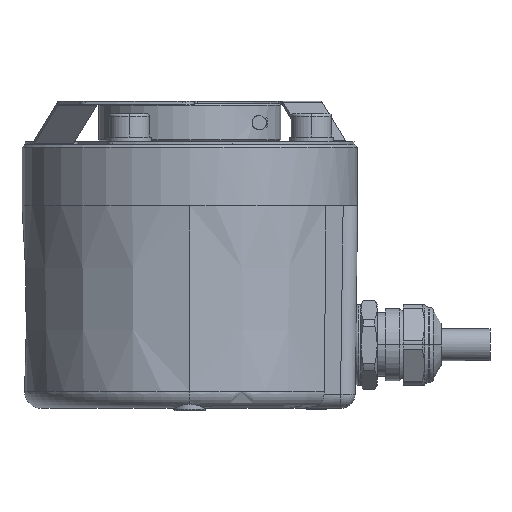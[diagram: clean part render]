
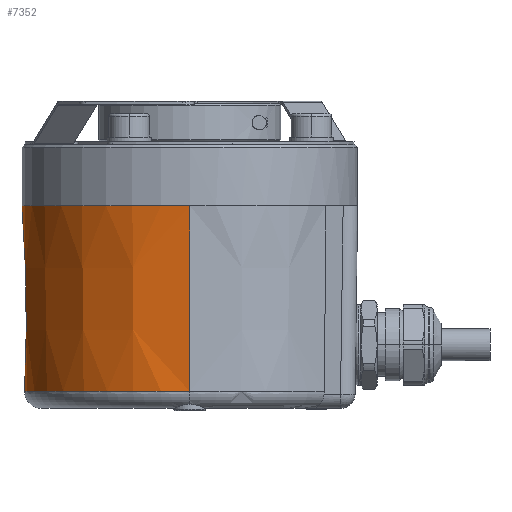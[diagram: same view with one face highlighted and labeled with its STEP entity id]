
A CAD part, left-side view. The second image highlights one B-rep face of the part: STEP entity #7352.
In plain terms, the highlighted conical face has half-angle 0.8 degrees and reference radius 29 mm.
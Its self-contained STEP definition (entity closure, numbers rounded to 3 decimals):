
#362 = VERTEX_POINT ( 'NONE', #1228 ) ;
#433 = DIRECTION ( 'NONE',  ( 0., 0., 1. ) ) ;
#826 = VERTEX_POINT ( 'NONE', #9686 ) ;
#1228 = CARTESIAN_POINT ( 'NONE',  ( -28.553, 0., -25.042 ) ) ;
#1851 = CIRCLE ( 'NONE', #11816, 29. ) ;
#2190 = DIRECTION ( 'NONE',  ( -1., 0., 0. ) ) ;
#2292 = VERTEX_POINT ( 'NONE', #12244 ) ;
#2441 = DIRECTION ( 'NONE',  ( 0.014, 0., 1. ) ) ;
#3293 = EDGE_CURVE ( 'NONE', #826, #2292, #1851, .T. ) ;
#3389 = ORIENTED_EDGE ( 'NONE', *, *, #11104, .F. ) ;
#3527 = CARTESIAN_POINT ( 'NONE',  ( 0., 0., 7. ) ) ;
#4038 = AXIS2_PLACEMENT_3D ( 'NONE', #14778, #8119, #17445 ) ;
#4185 = VECTOR ( 'NONE', #8956, 1000. ) ;
#4277 = VERTEX_POINT ( 'NONE', #5058 ) ;
#4795 = CARTESIAN_POINT ( 'NONE',  ( 0., 0., 7. ) ) ;
#5038 = EDGE_CURVE ( 'NONE', #7171, #362, #9981, .T. ) ;
#5058 = CARTESIAN_POINT ( 'NONE',  ( -29., 0., 7. ) ) ;
#5363 = ORIENTED_EDGE ( 'NONE', *, *, #3293, .F. ) ;
#5371 = DIRECTION ( 'NONE',  ( 0., 0., 1. ) ) ;
#6036 = EDGE_CURVE ( 'NONE', #2292, #4277, #11718, .T. ) ;
#6368 = ORIENTED_EDGE ( 'NONE', *, *, #5038, .T. ) ;
#6470 = CARTESIAN_POINT ( 'NONE',  ( -29., 0., 7. ) ) ;
#6779 = ORIENTED_EDGE ( 'NONE', *, *, #14060, .T. ) ;
#6996 = ORIENTED_EDGE ( 'NONE', *, *, #6036, .F. ) ;
#7171 = VERTEX_POINT ( 'NONE', #17093 ) ;
#7352 = ADVANCED_FACE ( 'NONE', ( #11655 ), #13166, .T. ) ;
#7360 = VECTOR ( 'NONE', #2441, 1000. ) ;
#7414 = AXIS2_PLACEMENT_3D ( 'NONE', #16298, #5371, #13725 ) ;
#8119 = DIRECTION ( 'NONE',  ( 0., 0., 1. ) ) ;
#8956 = DIRECTION ( 'NONE',  ( -0.014, 0., 1. ) ) ;
#8970 = DIRECTION ( 'NONE',  ( 0., 0., 1. ) ) ;
#9194 = AXIS2_PLACEMENT_3D ( 'NONE', #3527, #8970, #2190 ) ;
#9686 = CARTESIAN_POINT ( 'NONE',  ( 29., 0., 7. ) ) ;
#9981 = CIRCLE ( 'NONE', #7414, 28.553 ) ;
#11104 = EDGE_CURVE ( 'NONE', #7171, #826, #11818, .T. ) ;
#11655 = FACE_OUTER_BOUND ( 'NONE', #11805, .T. ) ;
#11718 = CIRCLE ( 'NONE', #4038, 29. ) ;
#11805 = EDGE_LOOP ( 'NONE', ( #3389, #6368, #6779, #6996, #5363 ) ) ;
#11816 = AXIS2_PLACEMENT_3D ( 'NONE', #4795, #433, #15560 ) ;
#11818 = LINE ( 'NONE', #15064, #7360 ) ;
#12244 = CARTESIAN_POINT ( 'NONE',  ( 0., 29., 7. ) ) ;
#13166 = CONICAL_SURFACE ( 'NONE', #9194, 29., 0.014 ) ;
#13725 = DIRECTION ( 'NONE',  ( 1., 0., 0. ) ) ;
#14060 = EDGE_CURVE ( 'NONE', #362, #4277, #15955, .T. ) ;
#14778 = CARTESIAN_POINT ( 'NONE',  ( 0., 0., 7. ) ) ;
#15064 = CARTESIAN_POINT ( 'NONE',  ( 29., 0., 7. ) ) ;
#15560 = DIRECTION ( 'NONE',  ( -1., 0., 0. ) ) ;
#15955 = LINE ( 'NONE', #6470, #4185 ) ;
#16298 = CARTESIAN_POINT ( 'NONE',  ( 0., 0., -25.042 ) ) ;
#17093 = CARTESIAN_POINT ( 'NONE',  ( 28.553, 0., -25.042 ) ) ;
#17445 = DIRECTION ( 'NONE',  ( -1., 0., 0. ) ) ;
